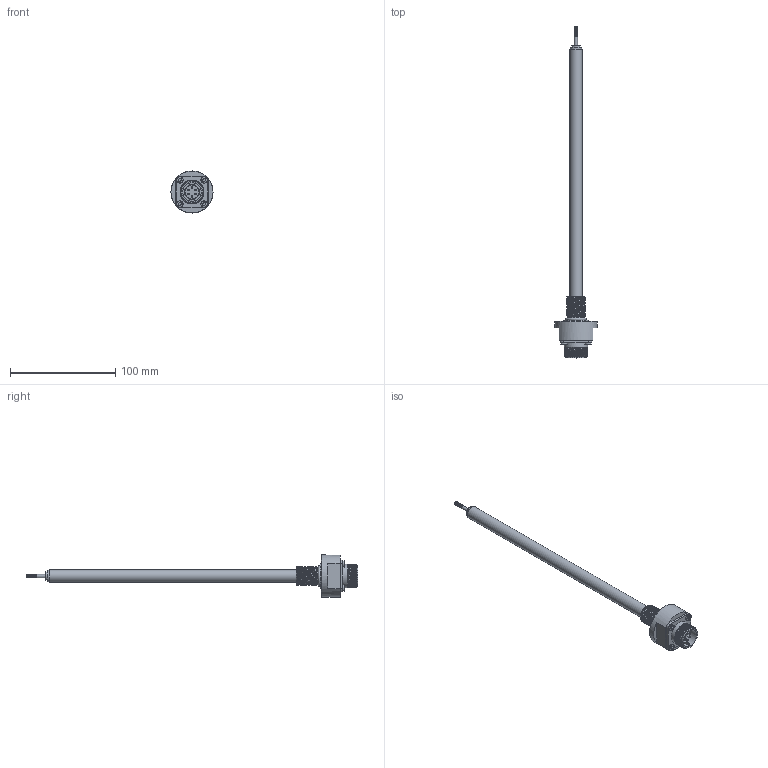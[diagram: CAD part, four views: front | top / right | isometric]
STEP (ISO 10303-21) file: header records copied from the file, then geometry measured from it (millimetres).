
FILE_DESCRIPTION( ( 'STEP AP214' ), '1' );
FILE_NAME( 'N:/Engineering/CAD_Solid/LVDT/HYD/Kunden-3D-Modell/SM140-HYD-18-S.stp', '2011-12-14T13:52:09', ( ' ' ), ( ' ' ), 'XStep 1.0', ' ', ' ' );
FILE_SCHEMA( ( 'CONFIG_CONTROL_DESIGN) ( )' ) );
Length unit declared in the file: metre
Products named in the file (17): 1; 2; 3; 4; 5; 6; 7; 8; 9; 10; 11; 12; 13; 14; 15; 16; 17
Bounding box: 40 x 315.9 x 40 mm (x, y, z)
Surface area: 22192.3 mm2
Topology: 1 solids, 128 shells, 136 faces, 609 edges, 564 vertices
Faces by surface type: plane 74, cylinder 37, bspline 13, cone 7, sphere 4, torus 1
Full cylindrical faces by diameter (mm): 1.6 x6, 2.4 x1, 3 x1, 4 x1, 6 x4, 8 x1, 11 x1, 12 x1, 15.8 x1, 17.6 x1, 20.2 x1, 22.3 x7, 24 x1, 40 x1
Entity records: 16626 total; most frequent: CARTESIAN_POINT 11440, DIRECTION 984, ORIENTED_EDGE 536, EDGE_CURVE 536, VERTEX_POINT 536, AXIS2_PLACEMENT_3D 371, LINE 242, VECTOR 242
